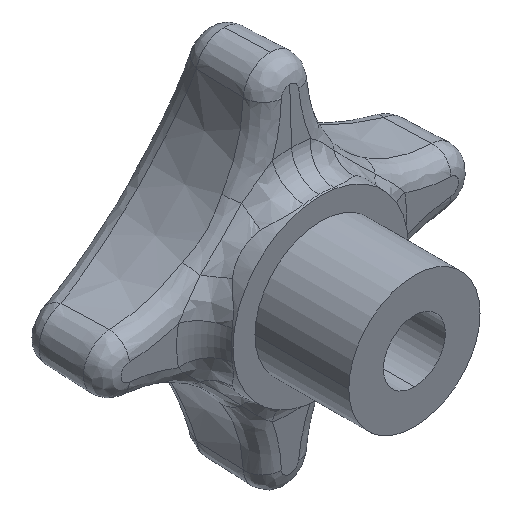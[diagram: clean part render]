
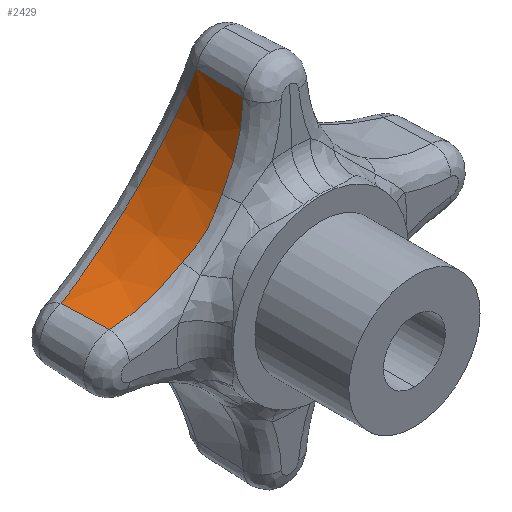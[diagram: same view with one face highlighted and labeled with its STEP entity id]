
A CAD part, isometric view. The second image highlights one B-rep face of the part: STEP entity #2429.
In plain terms, the highlighted conical face has half-angle 2 degrees and reference radius 15.242 mm.
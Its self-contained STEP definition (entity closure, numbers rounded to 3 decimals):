
#43 = B_SPLINE_CURVE_WITH_KNOTS ( 'NONE', 3,
 ( #4431, #470, #118, #4129, #2286, #1573, #1151, #1128 ),
 .UNSPECIFIED., .F., .F.,
 ( 4, 2, 2, 4 ),
 ( 0.014, 0.016, 0.018, 0.022 ),
 .UNSPECIFIED. ) ;
#47 = CARTESIAN_POINT ( 'NONE',  ( -10.826, 15.101, 4.776 ) ) ;
#118 = CARTESIAN_POINT ( 'NONE',  ( -4.769, 15.1, 10.816 ) ) ;
#183 = CARTESIAN_POINT ( 'NONE',  ( -3.359, 21.583, 13.573 ) ) ;
#232 = CARTESIAN_POINT ( 'NONE',  ( -5.921, 22.448, 8.582 ) ) ;
#322 = CARTESIAN_POINT ( 'NONE',  ( -5.754, 15.058, 9.27 ) ) ;
#375 = CARTESIAN_POINT ( 'NONE',  ( -17.192, 15.338, 2.912 ) ) ;
#394 = CARTESIAN_POINT ( 'NONE',  ( -7.541, 14.792, 7.219 ) ) ;
#429 = CARTESIAN_POINT ( 'NONE',  ( -15.85, 15.285, 3.047 ) ) ;
#470 = CARTESIAN_POINT ( 'NONE',  ( -5.104, 15.083, 10.239 ) ) ;
#512 = CARTESIAN_POINT ( 'NONE',  ( -10.246, 15.084, 5.112 ) ) ;
#543 = CARTESIAN_POINT ( 'NONE',  ( -2.91, 21.097, 15.372 ) ) ;
#595 = CARTESIAN_POINT ( 'NONE',  ( -5.116, 22.317, 9.757 ) ) ;
#630 = VECTOR ( 'NONE', #2976, 1000. ) ;
#697 = EDGE_LOOP ( 'NONE', ( #2437, #3023, #2176, #4028, #1693, #2251 ) ) ;
#705 = CARTESIAN_POINT ( 'NONE',  ( -5.475, 15.069, 9.686 ) ) ;
#737 = EDGE_CURVE ( 'NONE', #3082, #4722, #859, .T. ) ;
#738 = CARTESIAN_POINT ( 'NONE',  ( -14.043, 21.462, 3.225 ) ) ;
#859 = B_SPLINE_CURVE_WITH_KNOTS ( 'NONE', 3,
 ( #375, #2524, #429, #1507, #2576, #2214, #1147, #3794, #47, #512, #4349, #2599 ),
 .UNSPECIFIED., .F., .F.,
 ( 4, 2, 2, 2, 2, 4 ),
 ( 0., 0.002, 0.004, 0.006, 0.007, 0.008 ),
 .UNSPECIFIED. ) ;
#906 = CARTESIAN_POINT ( 'NONE',  ( -2.781, 20.816, 16.275 ) ) ;
#1010 = EDGE_CURVE ( 'NONE', #3852, #1055, #4020, .T. ) ;
#1027 = CARTESIAN_POINT ( 'NONE',  ( -12.719, 21.787, 3.645 ) ) ;
#1055 = VERTEX_POINT ( 'NONE', #1509 ) ;
#1094 = CARTESIAN_POINT ( 'NONE',  ( -8.091, 14.848, 6.709 ) ) ;
#1128 = CARTESIAN_POINT ( 'NONE',  ( -2.912, 15.338, 17.192 ) ) ;
#1147 = CARTESIAN_POINT ( 'NONE',  ( -12.025, 15.141, 4.171 ) ) ;
#1151 = CARTESIAN_POINT ( 'NONE',  ( -3.003, 15.285, 15.845 ) ) ;
#1335 = CARTESIAN_POINT ( 'NONE',  ( -6.525, 22.492, 7.855 ) ) ;
#1404 = CARTESIAN_POINT ( 'NONE',  ( -8.624, 22.435, 5.916 ) ) ;
#1452 = CARTESIAN_POINT ( 'NONE',  ( -9.686, 15.069, 5.475 ) ) ;
#1455 = CARTESIAN_POINT ( 'NONE',  ( -10.172, 22.27, 4.835 ) ) ;
#1507 = CARTESIAN_POINT ( 'NONE',  ( -14.538, 15.234, 3.312 ) ) ;
#1509 = CARTESIAN_POINT ( 'NONE',  ( -2.912, 15.338, 17.192 ) ) ;
#1573 = CARTESIAN_POINT ( 'NONE',  ( -3.267, 15.234, 14.54 ) ) ;
#1641 = CARTESIAN_POINT ( 'NONE',  ( -3.654, 21.792, 12.694 ) ) ;
#1693 = ORIENTED_EDGE ( 'NONE', *, *, #1010, .F. ) ;
#1812 = CARTESIAN_POINT ( 'NONE',  ( -2.993, 13., 17.198 ) ) ;
#1851 = CARTESIAN_POINT ( 'NONE',  ( -6.682, 14.85, 8.112 ) ) ;
#1869 = VERTEX_POINT ( 'NONE', #4154 ) ;
#1884 = EDGE_CURVE ( 'NONE', #3852, #1869, #2139, .T. ) ;
#1916 = CARTESIAN_POINT ( 'NONE',  ( -18.202, 13., 18.202 ) ) ;
#2090 = CARTESIAN_POINT ( 'NONE',  ( -12.279, 21.883, 3.815 ) ) ;
#2117 = VERTEX_POINT ( 'NONE', #4488 ) ;
#2139 = B_SPLINE_CURVE_WITH_KNOTS ( 'NONE', 3,
 ( #2768, #906, #543, #3464, #183, #1641, #4230, #3844, #3101, #3874, #595, #232, #1335, #3630, #4662, #1404, #2498, #1455, #3603, #2090, #1027, #4709, #738, #3939, #2911, #3246 ),
 .UNSPECIFIED., .F., .F.,
 ( 4, 2, 2, 2, 2, 2, 2, 2, 2, 2, 2, 2, 4 ),
 ( 0., 0.003, 0.004, 0.006, 0.007, 0.009, 0.011, 0.013, 0.014, 0.017, 0.019, 0.02, 0.023 ),
 .UNSPECIFIED. ) ;
#2176 = ORIENTED_EDGE ( 'NONE', *, *, #3571, .T. ) ;
#2214 = CARTESIAN_POINT ( 'NONE',  ( -12.639, 15.163, 3.915 ) ) ;
#2251 = ORIENTED_EDGE ( 'NONE', *, *, #1884, .T. ) ;
#2264 = CARTESIAN_POINT ( 'NONE',  ( -9.686, 15.069, 5.475 ) ) ;
#2277 = CARTESIAN_POINT ( 'NONE',  ( -17.198, 13., 2.993 ) ) ;
#2286 = CARTESIAN_POINT ( 'NONE',  ( -3.914, 15.163, 12.642 ) ) ;
#2429 = ADVANCED_FACE ( 'NONE', ( #3673 ), #2786, .F. ) ;
#2437 = ORIENTED_EDGE ( 'NONE', *, *, #4124, .T. ) ;
#2498 = CARTESIAN_POINT ( 'NONE',  ( -9.003, 22.402, 5.631 ) ) ;
#2524 = CARTESIAN_POINT ( 'NONE',  ( -16.52, 15.311, 2.957 ) ) ;
#2576 = CARTESIAN_POINT ( 'NONE',  ( -13.896, 15.21, 3.486 ) ) ;
#2599 = CARTESIAN_POINT ( 'NONE',  ( -9.686, 15.069, 5.475 ) ) ;
#2615 = DIRECTION ( 'NONE',  ( 0., 0., -1. ) ) ;
#2660 = CARTESIAN_POINT ( 'NONE',  ( -17.192, 15.338, 2.912 ) ) ;
#2768 = CARTESIAN_POINT ( 'NONE',  ( -2.732, 20.503, 17.18 ) ) ;
#2786 = CONICAL_SURFACE ( 'NONE', #3089, 15.242, 0.035 ) ;
#2868 = EDGE_CURVE ( 'NONE', #2117, #1055, #43, .T. ) ;
#2903 = CARTESIAN_POINT ( 'NONE',  ( -2.732, 20.503, 17.18 ) ) ;
#2911 = CARTESIAN_POINT ( 'NONE',  ( -16.275, 20.816, 2.781 ) ) ;
#2932 = CARTESIAN_POINT ( 'NONE',  ( -7.721, 14.804, 7.046 ) ) ;
#2976 = DIRECTION ( 'NONE',  ( -0.002, -0.999, 0.035 ) ) ;
#3023 = ORIENTED_EDGE ( 'NONE', *, *, #737, .T. ) ;
#3082 = VERTEX_POINT ( 'NONE', #2660 ) ;
#3089 = AXIS2_PLACEMENT_3D ( 'NONE', #1916, #3287, #2615 ) ;
#3101 = CARTESIAN_POINT ( 'NONE',  ( -4.406, 22.132, 10.989 ) ) ;
#3240 = VECTOR ( 'NONE', #4714, 1000. ) ;
#3246 = CARTESIAN_POINT ( 'NONE',  ( -17.18, 20.503, 2.732 ) ) ;
#3287 = DIRECTION ( 'NONE',  ( 0., 1., 0. ) ) ;
#3464 = CARTESIAN_POINT ( 'NONE',  ( -3.231, 21.468, 14.021 ) ) ;
#3571 = EDGE_CURVE ( 'NONE', #4722, #2117, #4446, .T. ) ;
#3603 = CARTESIAN_POINT ( 'NONE',  ( -10.991, 22.14, 4.381 ) ) ;
#3627 = CARTESIAN_POINT ( 'NONE',  ( -7.015, 14.794, 7.747 ) ) ;
#3630 = CARTESIAN_POINT ( 'NONE',  ( -7.532, 22.491, 6.849 ) ) ;
#3673 = FACE_OUTER_BOUND ( 'NONE', #697, .T. ) ;
#3794 = CARTESIAN_POINT ( 'NONE',  ( -11.124, 15.111, 4.617 ) ) ;
#3844 = CARTESIAN_POINT ( 'NONE',  ( -4.198, 22.057, 11.409 ) ) ;
#3852 = VERTEX_POINT ( 'NONE', #2903 ) ;
#3874 = CARTESIAN_POINT ( 'NONE',  ( -4.865, 22.262, 10.164 ) ) ;
#3938 = CARTESIAN_POINT ( 'NONE',  ( -8.861, 14.981, 6.06 ) ) ;
#3939 = CARTESIAN_POINT ( 'NONE',  ( -15.378, 21.095, 2.909 ) ) ;
#3960 = CARTESIAN_POINT ( 'NONE',  ( -9.264, 15.058, 5.758 ) ) ;
#3983 = CARTESIAN_POINT ( 'NONE',  ( -6.051, 14.983, 8.874 ) ) ;
#4020 = LINE ( 'NONE', #1812, #3240 ) ;
#4028 = ORIENTED_EDGE ( 'NONE', *, *, #2868, .T. ) ;
#4124 = EDGE_CURVE ( 'NONE', #1869, #3082, #4421, .T. ) ;
#4129 = CARTESIAN_POINT ( 'NONE',  ( -4.175, 15.14, 12.016 ) ) ;
#4154 = CARTESIAN_POINT ( 'NONE',  ( -17.18, 20.503, 2.732 ) ) ;
#4230 = CARTESIAN_POINT ( 'NONE',  ( -3.822, 21.887, 12.261 ) ) ;
#4349 = CARTESIAN_POINT ( 'NONE',  ( -9.963, 15.076, 5.289 ) ) ;
#4367 = CARTESIAN_POINT ( 'NONE',  ( -8.28, 14.879, 6.543 ) ) ;
#4421 = LINE ( 'NONE', #2277, #630 ) ;
#4431 = CARTESIAN_POINT ( 'NONE',  ( -5.475, 15.069, 9.686 ) ) ;
#4446 = B_SPLINE_CURVE_WITH_KNOTS ( 'NONE', 3,
 ( #1452, #3960, #3938, #4367, #1094, #2932, #394, #3627, #1851, #3983, #322, #705 ),
 .UNSPECIFIED., .F., .F.,
 ( 4, 2, 2, 2, 2, 4 ),
 ( 0., 0.002, 0.002, 0.003, 0.005, 0.006 ),
 .UNSPECIFIED. ) ;
#4488 = CARTESIAN_POINT ( 'NONE',  ( -5.475, 15.069, 9.686 ) ) ;
#4662 = CARTESIAN_POINT ( 'NONE',  ( -7.886, 22.48, 6.527 ) ) ;
#4709 = CARTESIAN_POINT ( 'NONE',  ( -13.6, 21.576, 3.351 ) ) ;
#4714 = DIRECTION ( 'NONE',  ( -0.035, -0.999, 0.002 ) ) ;
#4722 = VERTEX_POINT ( 'NONE', #2264 ) ;
